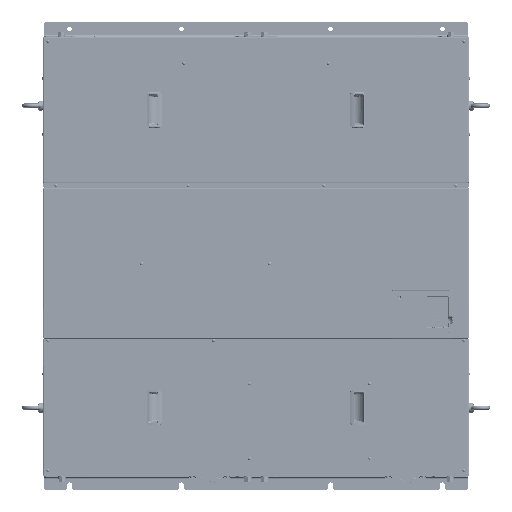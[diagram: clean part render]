
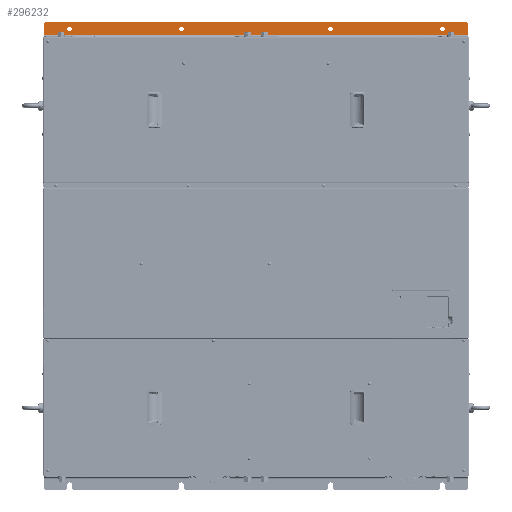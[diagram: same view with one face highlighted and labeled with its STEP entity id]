
A CAD part, top view. The second image highlights one B-rep face of the part: STEP entity #296232.
In plain terms, the highlighted planar face has unit normal (0, 0, 1).
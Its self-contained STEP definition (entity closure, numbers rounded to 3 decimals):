
#295227=DIRECTION('',(0.707,-0.707,0.));
#295228=VECTOR('',#295227,5.657);
#295229=CARTESIAN_POINT('',(621.,692.5,4.5));
#295230=LINE('',#295229,#295228);
#295231=DIRECTION('',(0.,-1.,0.));
#295232=VECTOR('',#295231,33.);
#295233=CARTESIAN_POINT('',(625.,688.5,4.5));
#295234=LINE('',#295233,#295232);
#295235=DIRECTION('',(0.,1.,0.));
#295236=VECTOR('',#295235,33.);
#295237=CARTESIAN_POINT('',(-625.,655.5,4.5));
#295238=LINE('',#295237,#295236);
#295239=DIRECTION('',(0.707,0.707,0.));
#295240=VECTOR('',#295239,5.657);
#295241=CARTESIAN_POINT('',(-625.,688.5,4.5));
#295242=LINE('',#295241,#295240);
#295243=DIRECTION('',(1.,0.,0.));
#295244=VECTOR('',#295243,1242.);
#295245=CARTESIAN_POINT('',(-621.,692.5,4.5));
#295246=LINE('',#295245,#295244);
#295247=CARTESIAN_POINT('',(550.,672.5,4.5));
#295248=DIRECTION('',(0.,0.,1.));
#295249=DIRECTION('',(-1.,0.,0.));
#295250=AXIS2_PLACEMENT_3D('',#295247,#295248,#295249);
#295252=CARTESIAN_POINT('',(550.,672.5,4.5));
#295253=DIRECTION('',(0.,0.,1.));
#295254=DIRECTION('',(1.,0.,0.));
#295255=AXIS2_PLACEMENT_3D('',#295252,#295253,#295254);
#295257=CARTESIAN_POINT('',(-550.,672.5,4.5));
#295258=DIRECTION('',(0.,0.,1.));
#295259=DIRECTION('',(-1.,0.,0.));
#295260=AXIS2_PLACEMENT_3D('',#295257,#295258,#295259);
#295262=CARTESIAN_POINT('',(-550.,672.5,4.5));
#295263=DIRECTION('',(0.,0.,1.));
#295264=DIRECTION('',(1.,0.,0.));
#295265=AXIS2_PLACEMENT_3D('',#295262,#295263,#295264);
#295267=CARTESIAN_POINT('',(220.,672.5,4.5));
#295268=DIRECTION('',(0.,0.,1.));
#295269=DIRECTION('',(1.,0.,0.));
#295270=AXIS2_PLACEMENT_3D('',#295267,#295268,#295269);
#295272=CARTESIAN_POINT('',(220.,672.5,4.5));
#295273=DIRECTION('',(0.,0.,1.));
#295274=DIRECTION('',(-1.,0.,0.));
#295275=AXIS2_PLACEMENT_3D('',#295272,#295273,#295274);
#295277=CARTESIAN_POINT('',(-220.,672.5,4.5));
#295278=DIRECTION('',(0.,0.,1.));
#295279=DIRECTION('',(1.,0.,0.));
#295280=AXIS2_PLACEMENT_3D('',#295277,#295278,#295279);
#295282=CARTESIAN_POINT('',(-220.,672.5,4.5));
#295283=DIRECTION('',(0.,0.,1.));
#295284=DIRECTION('',(-1.,0.,0.));
#295285=AXIS2_PLACEMENT_3D('',#295282,#295283,#295284);
#295287=DIRECTION('',(1.,0.,0.));
#295288=VECTOR('',#295287,1250.);
#295289=CARTESIAN_POINT('',(-625.,655.5,4.5));
#295290=LINE('',#295289,#295288);
#295909=CARTESIAN_POINT('',(625.,655.5,4.5));
#295910=VERTEX_POINT('',#295909);
#295939=CARTESIAN_POINT('',(543.,672.5,4.5));
#295940=CARTESIAN_POINT('',(557.,672.5,4.5));
#295941=VERTEX_POINT('',#295939);
#295942=VERTEX_POINT('',#295940);
#295943=CARTESIAN_POINT('',(621.,692.5,4.5));
#295944=CARTESIAN_POINT('',(625.,688.5,4.5));
#295945=VERTEX_POINT('',#295943);
#295946=VERTEX_POINT('',#295944);
#295947=CARTESIAN_POINT('',(-625.,655.5,4.5));
#295948=VERTEX_POINT('',#295947);
#295949=CARTESIAN_POINT('',(-625.,688.5,4.5));
#295950=VERTEX_POINT('',#295949);
#295951=CARTESIAN_POINT('',(-621.,692.5,4.5));
#295952=VERTEX_POINT('',#295951);
#295953=CARTESIAN_POINT('',(-557.,672.5,4.5));
#295954=CARTESIAN_POINT('',(-543.,672.5,4.5));
#295955=VERTEX_POINT('',#295953);
#295956=VERTEX_POINT('',#295954);
#295957=CARTESIAN_POINT('',(227.,672.5,4.5));
#295958=CARTESIAN_POINT('',(213.,672.5,4.5));
#295959=VERTEX_POINT('',#295957);
#295960=VERTEX_POINT('',#295958);
#295961=CARTESIAN_POINT('',(-213.,672.5,4.5));
#295962=CARTESIAN_POINT('',(-227.,672.5,4.5));
#295963=VERTEX_POINT('',#295961);
#295964=VERTEX_POINT('',#295962);
#296191=CARTESIAN_POINT('',(625.,646.,4.5));
#296192=DIRECTION('',(0.,0.,1.));
#296193=DIRECTION('',(1.,0.,0.));
#296194=AXIS2_PLACEMENT_3D('',#296191,#296192,#296193);
#296195=PLANE('',#296194);
#296196=ORIENTED_EDGE('',*,*,#296171,.T.);
#296197=ORIENTED_EDGE('',*,*,#296186,.T.);
#296199=ORIENTED_EDGE('',*,*,#296198,.F.);
#296201=ORIENTED_EDGE('',*,*,#296200,.T.);
#296203=ORIENTED_EDGE('',*,*,#296202,.T.);
#296205=ORIENTED_EDGE('',*,*,#296204,.T.);
#296206=EDGE_LOOP('',(#296196,#296197,#296199,#296201,#296203,#296205));
#296207=FACE_OUTER_BOUND('',#296206,.F.);
#296209=ORIENTED_EDGE('',*,*,#296208,.T.);
#296211=ORIENTED_EDGE('',*,*,#296210,.T.);
#296212=EDGE_LOOP('',(#296209,#296211));
#296213=FACE_BOUND('',#296212,.F.);
#296215=ORIENTED_EDGE('',*,*,#296214,.T.);
#296217=ORIENTED_EDGE('',*,*,#296216,.T.);
#296218=EDGE_LOOP('',(#296215,#296217));
#296219=FACE_BOUND('',#296218,.F.);
#296221=ORIENTED_EDGE('',*,*,#296220,.T.);
#296223=ORIENTED_EDGE('',*,*,#296222,.T.);
#296224=EDGE_LOOP('',(#296221,#296223));
#296225=FACE_BOUND('',#296224,.F.);
#296227=ORIENTED_EDGE('',*,*,#296226,.T.);
#296229=ORIENTED_EDGE('',*,*,#296228,.T.);
#296230=EDGE_LOOP('',(#296227,#296229));
#296231=FACE_BOUND('',#296230,.F.);
#295251=CIRCLE('',#295250,7.);
#295256=CIRCLE('',#295255,7.);
#295261=CIRCLE('',#295260,7.);
#295266=CIRCLE('',#295265,7.);
#295271=CIRCLE('',#295270,7.);
#295276=CIRCLE('',#295275,7.);
#295281=CIRCLE('',#295280,7.);
#295286=CIRCLE('',#295285,7.);
#296171=EDGE_CURVE('',#295945,#295946,#295230,.T.);
#296186=EDGE_CURVE('',#295946,#295910,#295234,.T.);
#296198=EDGE_CURVE('',#295948,#295910,#295290,.T.);
#296200=EDGE_CURVE('',#295948,#295950,#295238,.T.);
#296202=EDGE_CURVE('',#295950,#295952,#295242,.T.);
#296204=EDGE_CURVE('',#295952,#295945,#295246,.T.);
#296208=EDGE_CURVE('',#295941,#295942,#295251,.T.);
#296210=EDGE_CURVE('',#295942,#295941,#295256,.T.);
#296214=EDGE_CURVE('',#295955,#295956,#295261,.T.);
#296216=EDGE_CURVE('',#295956,#295955,#295266,.T.);
#296220=EDGE_CURVE('',#295959,#295960,#295271,.T.);
#296222=EDGE_CURVE('',#295960,#295959,#295276,.T.);
#296226=EDGE_CURVE('',#295963,#295964,#295281,.T.);
#296228=EDGE_CURVE('',#295964,#295963,#295286,.T.);
#296232=ADVANCED_FACE('',(#296207,#296213,#296219,#296225,#296231),#296195,.T.);
